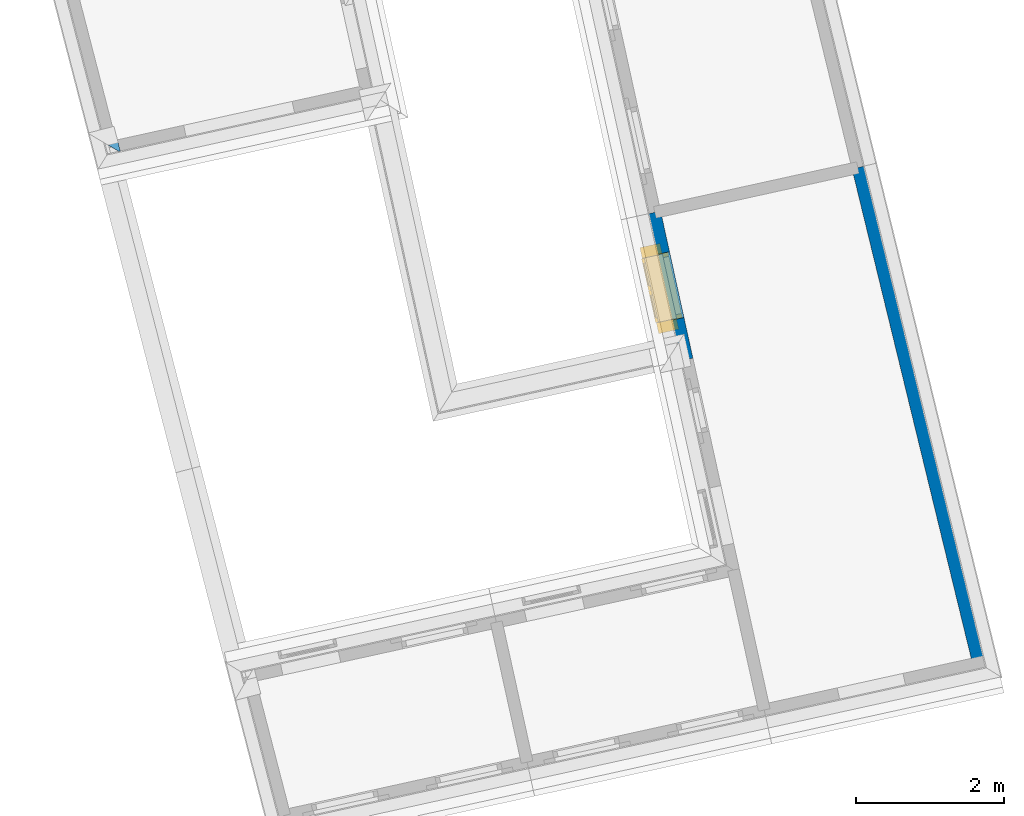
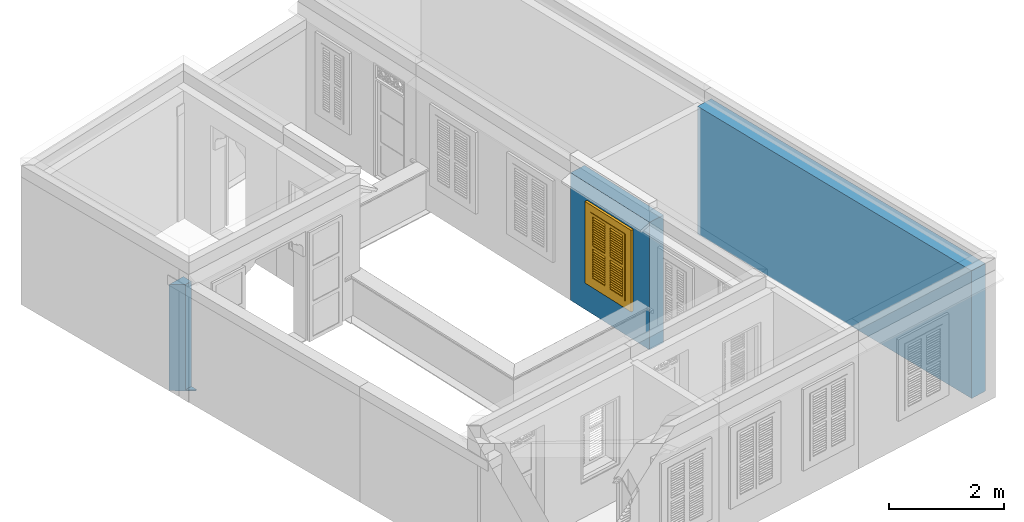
# One storey, part 8 of 17: 3 walls, 1 window, 1 opening.
"""IFC4 building model written with IfcOpenShell, lengths in metres."""

from ifc_helpers import new_model, si_unit, frame, origin, origin_with_axes, place, context, subcontext, project, spatial, polyline, outline, extrude, clip, halfspace, faceted_brep, source, transform, mapped, material, layer, layer_set, layer_usage, material_profile, profile_set, profile_usage, type_object, type_shapes, element, fill, save


model = new_model("IFC4")

# Units and contexts
model_context = context("Model", 3, world=origin_with_axes())
body_context = subcontext(model_context, "Body", "Model", "MODEL_VIEW")
ifc_project = project(units=[si_unit("PLANEANGLEUNIT", "RADIAN"), si_unit("MASSUNIT", "GRAM", prefix="KILO"), si_unit("FORCEUNIT", "NEWTON", prefix="KILO"), si_unit("LENGTHUNIT", "METRE"), si_unit("AREAUNIT", "SQUARE_METRE"), si_unit("VOLUMEUNIT", "CUBIC_METRE")], contexts=[model_context, model_context])

# Site, building, storey
site_placement = place(None, origin_with_axes())
site = spatial("IfcSite", under=ifc_project, at=site_placement, Name="Site plot-2", CompositionType="ELEMENT")
building_placement = place(None, origin_with_axes())
building = spatial("IfcBuilding", under=site, at=building_placement, Name="Building plot-2", CompositionType="ELEMENT")
storey_placement = place(None, frame((0.0, 0.0, 2.85), z_axis=(0.0, 0.0, 1.0), x_axis=(1.0, 0.0, 0.0)))
storey = spatial("IfcBuildingStorey", under=building, at=storey_placement, Name="plot-2 1", CompositionType="ELEMENT", Elevation=2.85)

# Wall, opening, window
ifc_material_1 = material(Name="Masonry")
ifc_layer_1 = layer(ifc_material_1, 0.33, ventilated=False)
ifc_layer_set_1 = layer_set([ifc_layer_1], Name="exterior_0.08_0.25")
ifc_layer_usage_1 = layer_usage(ifc_layer_set_1, "AXIS2", "POSITIVE", -0.25)
wall_type_1 = type_object("IfcWallType", Name="exterior_0.08_0.25", PredefinedType="SOLIDWALL", material=ifc_layer_set_1)
wall_1_placement = place(storey_placement, frame((16.3372042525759, 9.44376558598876, 0.0), z_axis=(0.0, 0.0, 1.0), x_axis=(0.214808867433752, -0.976656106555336, 0.0)))
wall_1 = element("IfcWall", 1, at=wall_1_placement, inside=storey, type_object=wall_type_1, material=ifc_layer_usage_1, Name="exterior", context=body_context, shape_type="SweptSolid", body=[
    extrude(outline(polyline([(6.97677754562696e-16, 0.0800000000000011), (-4.59242549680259e-17, -0.250000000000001), (2.03394094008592, -0.250000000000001), (2.03394094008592, 0.0800000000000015), (6.97677754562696e-16, 0.0800000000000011)])), origin_with_axes(), (0.0, 0.0, 1.0), 2.7),
])
opening_placement = place(wall_1_placement, frame((0.561970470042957, 0.0, 0.75)))
opening = element("IfcOpeningElement", 2, at=opening_placement, cuts=wall_1, Name="My Opening", ObjectType="Opening", context=body_context, shape_type="SweptSolid", body=[
    extrude(outline(polyline([(0.0, -0.269999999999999), (0.910000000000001, -0.269999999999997), (0.91, 1.1), (-1.4432899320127e-15, 1.1), (0.0, -0.269999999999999)])), origin_with_axes(), (0.0, 0.0, 1.0), 1.445),
])
window_type = type_object("IfcWindowType", Name="shuttered_shorter", PartitioningType="DOUBLE_PANEL_HORIZONTAL", PredefinedType="NOTDEFINED")
shared_shape = source(origin(), body_context, "Body", "Brep", [
    faceted_brep([(0.393, 0.0, 0.622), (0.074, 0.0, 0.622), (0.074, 0.0, 0.632), (0.393, 0.0, 0.632), (0.074, -0.04, 0.592), (0.393, -0.04, 0.592), (0.393, -0.04, 0.582), (0.074, -0.04, 0.582), (0.517, 0.0, 0.682), (0.836, 0.0, 0.682), (0.836, 0.0, 0.672), (0.517, 0.0, 0.672), (0.517, -0.04, 0.642), (0.836, -0.04, 0.642), (0.836, -0.04, 0.632), (0.517, -0.04, 0.632), (0.517, 0.0, 0.632), (0.836, 0.0, 0.632), (0.836, 0.0, 0.622), (0.517, 0.0, 0.622), (0.517, -0.04, 0.592), (0.836, -0.04, 0.592), (0.836, -0.04, 0.582), (0.517, -0.04, 0.582), (0.517, 0.0, 0.232), (0.836, 0.0, 0.232), (0.836, 0.0, 0.222), (0.517, 0.0, 0.222), (0.517, -0.04, 0.192), (0.836, -0.04, 0.192), (0.836, -0.04, 0.182), (0.517, -0.04, 0.182), (0.517, 0.0, 0.532), (0.836, 0.0, 0.532), (0.836, 0.0, 0.522), (0.517, 0.0, 0.522), (0.517, -0.04, 0.492), (0.836, -0.04, 0.492), (0.836, -0.04, 0.482), (0.517, -0.04, 0.482), (0.517, 0.0, 0.482), (0.836, 0.0, 0.482), (0.836, 0.0, 0.472), (0.517, 0.0, 0.472), (0.517, -0.04, 0.442), (0.836, -0.04, 0.442), (0.836, -0.04, 0.432), (0.517, -0.04, 0.432), (0.517, 0.0, 0.582), (0.836, 0.0, 0.582), (0.836, 0.0, 0.572), (0.517, 0.0, 0.572), (0.517, -0.04, 0.542), (0.836, -0.04, 0.542), (0.836, -0.04, 0.532), (0.517, -0.04, 0.532), (0.517, 0.0, 0.182), (0.836, 0.0, 0.182), (0.836, 0.0, 0.172), (0.517, 0.0, 0.172), (0.517, -0.04, 0.142), (0.836, -0.04, 0.142), (0.836, -0.04, 0.132), (0.517, -0.04, 0.132), (0.517, 0.0, 0.382), (0.836, 0.0, 0.382), (0.836, 0.0, 0.372), (0.517, 0.0, 0.372), (0.517, -0.04, 0.342), (0.836, -0.04, 0.342), (0.836, -0.04, 0.332), (0.517, -0.04, 0.332), (0.517, 0.0, 0.432), (0.836, 0.0, 0.432), (0.836, 0.0, 0.422), (0.517, 0.0, 0.422), (0.517, -0.04, 0.392), (0.836, -0.04, 0.392), (0.836, -0.04, 0.382), (0.517, -0.04, 0.382), (0.517, 0.0, 0.132), (0.836, 0.0, 0.132), (0.836, 0.0, 0.122), (0.517, 0.0, 0.122), (0.517, -0.04, 0.092), (0.836, -0.04, 0.092), (0.836, -0.04, 0.082), (0.517, -0.04, 0.082), (0.517, 0.0, 0.282), (0.836, 0.0, 0.282), (0.836, 0.0, 0.272), (0.517, 0.0, 0.272), (0.517, -0.04, 0.242), (0.836, -0.04, 0.242), (0.836, -0.04, 0.232), (0.517, -0.04, 0.232), (0.517, 0.0, 0.332), (0.836, 0.0, 0.332), (0.836, 0.0, 0.322), (0.517, 0.0, 0.322), (0.517, -0.04, 0.292), (0.836, -0.04, 0.292), (0.836, -0.04, 0.282), (0.517, -0.04, 0.282), (0.517, 0.0, 1.362667), (0.836, 0.0, 1.362667), (0.836, 0.0, 1.352667), (0.517, 0.0, 1.352667), (0.517, -0.04, 1.322667), (0.836, -0.04, 1.322667), (0.836, -0.04, 1.312667), (0.517, -0.04, 1.312667), (0.517, 0.0, 1.312667), (0.836, 0.0, 1.312667), (0.836, 0.0, 1.302667), (0.517, 0.0, 1.302667), (0.517, -0.04, 1.272667), (0.836, -0.04, 1.272667), (0.836, -0.04, 1.262667), (0.517, -0.04, 1.262667), (0.517, 0.0, 0.912667), (0.836, 0.0, 0.912667), (0.836, 0.0, 0.902667), (0.517, 0.0, 0.902667), (0.517, -0.04, 0.872667), (0.836, -0.04, 0.872667), (0.836, -0.04, 0.862667), (0.517, -0.04, 0.862667), (0.517, 0.0, 1.212667), (0.836, 0.0, 1.212667), (0.836, 0.0, 1.202667), (0.517, 0.0, 1.202667), (0.517, -0.04, 1.172667), (0.836, -0.04, 1.172667), (0.836, -0.04, 1.162667), (0.517, -0.04, 1.162667), (0.517, 0.0, 1.162667), (0.836, 0.0, 1.162667), (0.836, 0.0, 1.152667), (0.517, 0.0, 1.152667), (0.517, -0.04, 1.122667), (0.836, -0.04, 1.122667), (0.836, -0.04, 1.112667), (0.517, -0.04, 1.112667), (0.517, 0.0, 1.262667), (0.836, 0.0, 1.262667), (0.836, 0.0, 1.252667), (0.517, 0.0, 1.252667), (0.517, -0.04, 1.222667), (0.836, -0.04, 1.222667), (0.836, -0.04, 1.212667), (0.517, -0.04, 1.212667), (0.517, 0.0, 0.862667), (0.836, 0.0, 0.862667), (0.836, 0.0, 0.852667), (0.517, 0.0, 0.852667), (0.517, -0.04, 0.822667), (0.836, -0.04, 0.822667), (0.836, -0.04, 0.812667), (0.517, -0.04, 0.812667), (0.517, 0.0, 1.062667), (0.836, 0.0, 1.062667), (0.836, 0.0, 1.052667), (0.517, 0.0, 1.052667), (0.517, -0.04, 1.022667), (0.836, -0.04, 1.022667), (0.836, -0.04, 1.012667), (0.517, -0.04, 1.012667), (0.517, 0.0, 1.112667), (0.836, 0.0, 1.112667), (0.836, 0.0, 1.102667), (0.517, 0.0, 1.102667), (0.517, -0.04, 1.072667), (0.836, -0.04, 1.072667), (0.836, -0.04, 1.062667), (0.517, -0.04, 1.062667), (0.517, 0.0, 0.812667), (0.836, 0.0, 0.812667), (0.836, 0.0, 0.802667), (0.517, 0.0, 0.802667), (0.517, -0.04, 0.772667), (0.836, -0.04, 0.772667), (0.836, -0.04, 0.762667), (0.517, -0.04, 0.762667), (0.517, 0.0, 0.962667), (0.836, 0.0, 0.962667), (0.836, 0.0, 0.952667), (0.517, 0.0, 0.952667), (0.517, -0.04, 0.922667), (0.836, -0.04, 0.922667), (0.836, -0.04, 0.912667), (0.517, -0.04, 0.912667), (0.517, 0.0, 1.012667), (0.836, 0.0, 1.012667), (0.836, 0.0, 1.002667), (0.517, 0.0, 1.002667), (0.517, -0.04, 0.972667), (0.836, -0.04, 0.972667), (0.836, -0.04, 0.962667), (0.517, -0.04, 0.962667), (0.074, 0.0, 0.682), (0.393, 0.0, 0.682), (0.393, 0.0, 0.672), (0.074, 0.0, 0.672), (0.074, -0.04, 0.642), (0.393, -0.04, 0.642), (0.393, -0.04, 0.632), (0.074, -0.04, 0.632), (0.074, 0.0, 0.232), (0.393, 0.0, 0.232), (0.393, 0.0, 0.222), (0.074, 0.0, 0.222), (0.074, -0.04, 0.192), (0.393, -0.04, 0.192), (0.393, -0.04, 0.182), (0.074, -0.04, 0.182), (0.074, 0.0, 0.532), (0.393, 0.0, 0.532), (0.393, 0.0, 0.522), (0.074, 0.0, 0.522), (0.074, -0.04, 0.492), (0.393, -0.04, 0.492), (0.393, -0.04, 0.482), (0.074, -0.04, 0.482), (0.074, 0.0, 0.482), (0.393, 0.0, 0.482), (0.393, 0.0, 0.472), (0.074, 0.0, 0.472), (0.074, -0.04, 0.442), (0.393, -0.04, 0.442), (0.393, -0.04, 0.432), (0.074, -0.04, 0.432), (0.074, 0.0, 0.582), (0.393, 0.0, 0.582), (0.393, 0.0, 0.572), (0.074, 0.0, 0.572), (0.074, -0.04, 0.542), (0.393, -0.04, 0.542), (0.393, -0.04, 0.532), (0.074, -0.04, 0.532), (0.074, 0.0, 0.182), (0.393, 0.0, 0.182), (0.393, 0.0, 0.172), (0.074, 0.0, 0.172), (0.074, -0.04, 0.142), (0.393, -0.04, 0.142), (0.393, -0.04, 0.132), (0.074, -0.04, 0.132), (0.074, 0.0, 0.382), (0.393, 0.0, 0.382), (0.393, 0.0, 0.372), (0.074, 0.0, 0.372), (0.074, -0.04, 0.342), (0.393, -0.04, 0.342), (0.393, -0.04, 0.332), (0.074, -0.04, 0.332), (0.074, 0.0, 0.432), (0.393, 0.0, 0.432), (0.393, 0.0, 0.422), (0.074, 0.0, 0.422), (0.074, -0.04, 0.392), (0.393, -0.04, 0.392), (0.393, -0.04, 0.382), (0.074, -0.04, 0.382), (0.074, 0.0, 0.132), (0.393, 0.0, 0.132), (0.393, 0.0, 0.122), (0.074, 0.0, 0.122), (0.074, -0.04, 0.092), (0.393, -0.04, 0.092), (0.393, -0.04, 0.082), (0.074, -0.04, 0.082), (0.074, 0.0, 0.282), (0.393, 0.0, 0.282), (0.393, 0.0, 0.272), (0.074, 0.0, 0.272), (0.074, -0.04, 0.242), (0.393, -0.04, 0.242), (0.393, -0.04, 0.232), (0.074, -0.04, 0.232), (0.074, 0.0, 0.332), (0.393, 0.0, 0.332), (0.393, 0.0, 0.322), (0.074, 0.0, 0.322), (0.074, -0.04, 0.292), (0.393, -0.04, 0.292), (0.393, -0.04, 0.282), (0.074, -0.04, 0.282), (0.074, 0.0, 1.362667), (0.393, 0.0, 1.362667), (0.393, 0.0, 1.352667), (0.074, 0.0, 1.352667), (0.074, -0.04, 1.322667), (0.393, -0.04, 1.322667), (0.393, -0.04, 1.312667), (0.074, -0.04, 1.312667), (0.074, 0.0, 1.312667), (0.393, 0.0, 1.312667), (0.393, 0.0, 1.302667), (0.074, 0.0, 1.302667), (0.074, -0.04, 1.272667), (0.393, -0.04, 1.272667), (0.393, -0.04, 1.262667), (0.074, -0.04, 1.262667), (0.074, 0.0, 0.912667), (0.393, 0.0, 0.912667), (0.393, 0.0, 0.902667), (0.074, 0.0, 0.902667), (0.074, -0.04, 0.872667), (0.393, -0.04, 0.872667), (0.393, -0.04, 0.862667), (0.074, -0.04, 0.862667), (0.074, 0.0, 1.212667), (0.393, 0.0, 1.212667), (0.393, 0.0, 1.202667), (0.074, 0.0, 1.202667), (0.074, -0.04, 1.172667), (0.393, -0.04, 1.172667), (0.393, -0.04, 1.162667), (0.074, -0.04, 1.162667), (0.074, 0.0, 1.162667), (0.393, 0.0, 1.162667), (0.393, 0.0, 1.152667), (0.074, 0.0, 1.152667), (0.074, -0.04, 1.122667), (0.393, -0.04, 1.122667), (0.393, -0.04, 1.112667), (0.074, -0.04, 1.112667), (0.074, 0.0, 1.262667), (0.393, 0.0, 1.262667), (0.393, 0.0, 1.252667), (0.074, 0.0, 1.252667), (0.074, -0.04, 1.222667), (0.393, -0.04, 1.222667), (0.393, -0.04, 1.212667), (0.074, -0.04, 1.212667), (0.074, 0.0, 0.862667), (0.393, 0.0, 0.862667), (0.393, 0.0, 0.852667), (0.074, 0.0, 0.852667), (0.074, -0.04, 0.822667), (0.393, -0.04, 0.822667), (0.393, -0.04, 0.812667), (0.074, -0.04, 0.812667), (0.074, 0.0, 1.062667), (0.393, 0.0, 1.062667), (0.393, 0.0, 1.052667), (0.074, 0.0, 1.052667), (0.074, -0.04, 1.022667), (0.393, -0.04, 1.022667), (0.393, -0.04, 1.012667), (0.074, -0.04, 1.012667), (0.074, 0.0, 1.112667), (0.393, 0.0, 1.112667), (0.393, 0.0, 1.102667), (0.074, 0.0, 1.102667), (0.074, -0.04, 1.072667), (0.393, -0.04, 1.072667), (0.393, -0.04, 1.062667), (0.074, -0.04, 1.062667), (0.074, 0.0, 0.812667), (0.393, 0.0, 0.812667), (0.393, 0.0, 0.802667), (0.074, 0.0, 0.802667), (0.074, -0.04, 0.772667), (0.393, -0.04, 0.772667), (0.393, -0.04, 0.762667), (0.074, -0.04, 0.762667), (0.074, 0.0, 0.962667), (0.393, 0.0, 0.962667), (0.393, 0.0, 0.952667), (0.074, 0.0, 0.952667), (0.074, -0.04, 0.922667), (0.393, -0.04, 0.922667), (0.393, -0.04, 0.912667), (0.074, -0.04, 0.912667), (0.074, 0.0, 1.012667), (0.393, 0.0, 1.012667), (0.393, 0.0, 1.002667), (0.074, 0.0, 1.002667), (0.074, -0.04, 0.972667), (0.393, -0.04, 0.972667), (0.393, -0.04, 0.962667), (0.074, -0.04, 0.962667), (0.517, -0.04, 0.072), (0.457, -0.04, 0.012), (0.896, -0.04, 0.012), (0.836, -0.04, 0.072), (0.457, -0.04, 0.692667), (0.517, -0.04, 0.692667), (0.457, 0.0, 0.012), (0.896, 0.0, 0.012), (0.836, -0.04, 0.692667), (0.896, -0.04, 0.692667), (0.836, 0.0, 0.072), (0.517, 0.0, 0.072), (0.457, 0.0, 0.692667), (0.517, 0.0, 0.692667), (0.517, -0.04, 0.752666), (0.457, -0.04, 0.752666), (0.896, 0.0, 0.692667), (0.836, 0.0, 0.692667), (0.836, -0.04, 0.752666), (0.896, -0.04, 0.752666), (0.457, 0.0, 0.752666), (0.457, -0.04, 1.433333), (0.517, -0.04, 1.373333), (0.896, 0.0, 0.752666), (0.836, -0.04, 1.373333), (0.896, -0.04, 1.433333), (0.457, 0.0, 1.433333), (0.517, 0.0, 0.752666), (0.836, 0.0, 0.752666), (0.517, 0.0, 1.373333), (0.896, 0.0, 1.433333), (0.836, 0.0, 1.373333), (0.074, -0.04, 0.072), (0.014, -0.04, 0.012), (0.453, -0.04, 0.012), (0.393, -0.04, 0.072), (0.014, -0.04, 0.692667), (0.074, -0.04, 0.692667), (0.014, 0.0, 0.012), (0.453, 0.0, 0.012), (0.393, -0.04, 0.692667), (0.453, -0.04, 0.692667), (0.393, 0.0, 0.072), (0.074, 0.0, 0.072), (0.014, 0.0, 0.692667), (0.074, 0.0, 0.692667), (0.074, -0.04, 0.752666), (0.014, -0.04, 0.752666), (0.453, 0.0, 0.692667), (0.393, 0.0, 0.692667), (0.393, -0.04, 0.752666), (0.453, -0.04, 0.752666), (0.014, 0.0, 0.752666), (0.014, -0.04, 1.433333), (0.074, -0.04, 1.373333), (0.453, 0.0, 0.752666), (0.393, -0.04, 1.373333), (0.453, -0.04, 1.433333), (0.014, 0.0, 1.433333), (0.074, 0.0, 0.752666), (0.393, 0.0, 0.752666), (0.074, 0.0, 1.373333), (0.453, 0.0, 1.433333), (0.393, 0.0, 1.373333), (0.0, 0.33, 1.445), (0.91, 0.33, 1.445), (0.85, 0.33, 1.385), (0.06, 0.33, 1.385), (0.91, 0.25, 1.445), (0.0, 0.25, 1.445), (0.91, 0.25, 1.445), (0.85, 0.33, 0.06), (0.91, 0.33, 0.0), (0.85, 0.25, 1.385), (0.06, 0.25, 1.385), (0.0, 0.33, 0.0), (0.06, 0.33, 0.06), (0.0, 0.25, 0.0), (0.91, 0.25, 0.0), (0.85, 0.25, 0.06), (0.06, 0.25, 0.06), (1.05, 0.25, 1.585), (-0.14, 0.25, 1.585), (-0.14, -0.03, 1.585), (1.05, -0.03, 1.585), (0.9, -0.03, 1.435), (0.01, -0.03, 1.435), (0.01, 0.25, 1.435), (0.9, 0.25, 1.435), (0.9, 0.25, 0.01), (0.9, -0.03, 0.01), (1.05, -0.03, -0.14), (1.05, 0.25, -0.14), (0.01, -0.03, 0.01), (0.01, 0.25, 0.01), (-0.14, -0.03, -0.14), (-0.14, 0.25, -0.14)], [[[0, 1, 2, 3]], [[4, 5, 3, 2]], [[5, 6, 0, 3]], [[1, 0, 6, 7]], [[2, 1, 7, 4]], [[5, 4, 7, 6]], [[8, 9, 10, 11]], [[12, 13, 9, 8]], [[13, 14, 10, 9]], [[14, 15, 11, 10]], [[15, 12, 8, 11]], [[13, 12, 15, 14]], [[16, 17, 18, 19]], [[20, 21, 17, 16]], [[21, 22, 18, 17]], [[22, 23, 19, 18]], [[23, 20, 16, 19]], [[21, 20, 23, 22]], [[24, 25, 26, 27]], [[28, 29, 25, 24]], [[29, 30, 26, 25]], [[30, 31, 27, 26]], [[31, 28, 24, 27]], [[29, 28, 31, 30]], [[32, 33, 34, 35]], [[36, 37, 33, 32]], [[37, 38, 34, 33]], [[38, 39, 35, 34]], [[39, 36, 32, 35]], [[37, 36, 39, 38]], [[40, 41, 42, 43]], [[44, 45, 41, 40]], [[45, 46, 42, 41]], [[46, 47, 43, 42]], [[47, 44, 40, 43]], [[45, 44, 47, 46]], [[48, 49, 50, 51]], [[52, 53, 49, 48]], [[53, 54, 50, 49]], [[54, 55, 51, 50]], [[55, 52, 48, 51]], [[53, 52, 55, 54]], [[56, 57, 58, 59]], [[60, 61, 57, 56]], [[61, 62, 58, 57]], [[62, 63, 59, 58]], [[63, 60, 56, 59]], [[61, 60, 63, 62]], [[64, 65, 66, 67]], [[68, 69, 65, 64]], [[69, 70, 66, 65]], [[70, 71, 67, 66]], [[71, 68, 64, 67]], [[69, 68, 71, 70]], [[72, 73, 74, 75]], [[76, 77, 73, 72]], [[77, 78, 74, 73]], [[78, 79, 75, 74]], [[79, 76, 72, 75]], [[77, 76, 79, 78]], [[80, 81, 82, 83]], [[84, 85, 81, 80]], [[85, 86, 82, 81]], [[86, 87, 83, 82]], [[87, 84, 80, 83]], [[85, 84, 87, 86]], [[88, 89, 90, 91]], [[92, 93, 89, 88]], [[93, 94, 90, 89]], [[94, 95, 91, 90]], [[95, 92, 88, 91]], [[93, 92, 95, 94]], [[96, 97, 98, 99]], [[100, 101, 97, 96]], [[101, 102, 98, 97]], [[102, 103, 99, 98]], [[103, 100, 96, 99]], [[101, 100, 103, 102]], [[104, 105, 106, 107]], [[108, 109, 105, 104]], [[109, 110, 106, 105]], [[110, 111, 107, 106]], [[111, 108, 104, 107]], [[109, 108, 111, 110]], [[112, 113, 114, 115]], [[116, 117, 113, 112]], [[117, 118, 114, 113]], [[118, 119, 115, 114]], [[119, 116, 112, 115]], [[117, 116, 119, 118]], [[120, 121, 122, 123]], [[124, 125, 121, 120]], [[125, 126, 122, 121]], [[126, 127, 123, 122]], [[127, 124, 120, 123]], [[125, 124, 127, 126]], [[128, 129, 130, 131]], [[132, 133, 129, 128]], [[133, 134, 130, 129]], [[134, 135, 131, 130]], [[135, 132, 128, 131]], [[133, 132, 135, 134]], [[136, 137, 138, 139]], [[140, 141, 137, 136]], [[141, 142, 138, 137]], [[142, 143, 139, 138]], [[139, 143, 140, 136]], [[141, 140, 143, 142]], [[144, 145, 146, 147]], [[148, 149, 145, 144]], [[149, 150, 146, 145]], [[150, 151, 147, 146]], [[151, 148, 144, 147]], [[149, 148, 151, 150]], [[152, 153, 154, 155]], [[156, 157, 153, 152]], [[157, 158, 154, 153]], [[158, 159, 155, 154]], [[159, 156, 152, 155]], [[157, 156, 159, 158]], [[160, 161, 162, 163]], [[164, 165, 161, 160]], [[165, 166, 162, 161]], [[166, 167, 163, 162]], [[167, 164, 160, 163]], [[165, 164, 167, 166]], [[168, 169, 170, 171]], [[172, 173, 169, 168]], [[173, 174, 170, 169]], [[174, 175, 171, 170]], [[175, 172, 168, 171]], [[173, 172, 175, 174]], [[176, 177, 178, 179]], [[180, 181, 177, 176]], [[181, 182, 178, 177]], [[182, 183, 179, 178]], [[183, 180, 176, 179]], [[181, 180, 183, 182]], [[184, 185, 186, 187]], [[188, 189, 185, 184]], [[189, 190, 186, 185]], [[190, 191, 187, 186]], [[191, 188, 184, 187]], [[189, 188, 191, 190]], [[192, 193, 194, 195]], [[196, 197, 193, 192]], [[197, 198, 194, 193]], [[198, 199, 195, 194]], [[199, 196, 192, 195]], [[197, 196, 199, 198]], [[200, 201, 202, 203]], [[204, 205, 201, 200]], [[205, 206, 202, 201]], [[206, 207, 203, 202]], [[207, 204, 200, 203]], [[205, 204, 207, 206]], [[208, 209, 210, 211]], [[212, 213, 209, 208]], [[213, 214, 210, 209]], [[214, 215, 211, 210]], [[215, 212, 208, 211]], [[213, 212, 215, 214]], [[216, 217, 218, 219]], [[220, 221, 217, 216]], [[221, 222, 218, 217]], [[222, 223, 219, 218]], [[223, 220, 216, 219]], [[221, 220, 223, 222]], [[224, 225, 226, 227]], [[228, 229, 225, 224]], [[229, 230, 226, 225]], [[230, 231, 227, 226]], [[231, 228, 224, 227]], [[229, 228, 231, 230]], [[232, 233, 234, 235]], [[236, 237, 233, 232]], [[237, 238, 234, 233]], [[238, 239, 235, 234]], [[239, 236, 232, 235]], [[237, 236, 239, 238]], [[240, 241, 242, 243]], [[244, 245, 241, 240]], [[245, 246, 242, 241]], [[246, 247, 243, 242]], [[247, 244, 240, 243]], [[245, 244, 247, 246]], [[248, 249, 250, 251]], [[252, 253, 249, 248]], [[253, 254, 250, 249]], [[254, 255, 251, 250]], [[255, 252, 248, 251]], [[253, 252, 255, 254]], [[256, 257, 258, 259]], [[260, 261, 257, 256]], [[261, 262, 258, 257]], [[262, 263, 259, 258]], [[263, 260, 256, 259]], [[261, 260, 263, 262]], [[264, 265, 266, 267]], [[268, 269, 265, 264]], [[269, 270, 266, 265]], [[270, 271, 267, 266]], [[271, 268, 264, 267]], [[269, 268, 271, 270]], [[272, 273, 274, 275]], [[276, 277, 273, 272]], [[277, 278, 274, 273]], [[278, 279, 275, 274]], [[279, 276, 272, 275]], [[277, 276, 279, 278]], [[280, 281, 282, 283]], [[284, 285, 281, 280]], [[285, 286, 282, 281]], [[286, 287, 283, 282]], [[287, 284, 280, 283]], [[285, 284, 287, 286]], [[288, 289, 290, 291]], [[292, 293, 289, 288]], [[293, 294, 290, 289]], [[294, 295, 291, 290]], [[295, 292, 288, 291]], [[293, 292, 295, 294]], [[296, 297, 298, 299]], [[300, 301, 297, 296]], [[301, 302, 298, 297]], [[302, 303, 299, 298]], [[303, 300, 296, 299]], [[301, 300, 303, 302]], [[304, 305, 306, 307]], [[308, 309, 305, 304]], [[309, 310, 306, 305]], [[310, 311, 307, 306]], [[311, 308, 304, 307]], [[309, 308, 311, 310]], [[312, 313, 314, 315]], [[316, 317, 313, 312]], [[317, 318, 314, 313]], [[318, 319, 315, 314]], [[319, 316, 312, 315]], [[317, 316, 319, 318]], [[320, 321, 322, 323]], [[324, 325, 321, 320]], [[325, 326, 322, 321]], [[326, 327, 323, 322]], [[327, 324, 320, 323]], [[325, 324, 327, 326]], [[328, 329, 330, 331]], [[332, 333, 329, 328]], [[333, 334, 330, 329]], [[334, 335, 331, 330]], [[335, 332, 328, 331]], [[333, 332, 335, 334]], [[336, 337, 338, 339]], [[340, 341, 337, 336]], [[341, 342, 338, 337]], [[342, 343, 339, 338]], [[343, 340, 336, 339]], [[341, 340, 343, 342]], [[344, 345, 346, 347]], [[348, 349, 345, 344]], [[349, 350, 346, 345]], [[350, 351, 347, 346]], [[351, 348, 344, 347]], [[349, 348, 351, 350]], [[352, 353, 354, 355]], [[356, 357, 353, 352]], [[357, 358, 354, 353]], [[358, 359, 355, 354]], [[359, 356, 352, 355]], [[357, 356, 359, 358]], [[360, 361, 362, 363]], [[364, 365, 361, 360]], [[365, 366, 362, 361]], [[366, 367, 363, 362]], [[367, 364, 360, 363]], [[365, 364, 367, 366]], [[368, 369, 370, 371]], [[372, 373, 369, 368]], [[373, 374, 370, 369]], [[374, 375, 371, 370]], [[375, 372, 368, 371]], [[373, 372, 375, 374]], [[376, 377, 378, 379]], [[380, 381, 377, 376]], [[381, 382, 378, 377]], [[382, 383, 379, 378]], [[383, 380, 376, 379]], [[381, 380, 383, 382]], [[384, 385, 386, 387]], [[388, 385, 384, 389]], [[390, 391, 386, 385]], [[392, 387, 386, 393]], [[384, 387, 394, 395]], [[390, 385, 388, 396]], [[389, 384, 395, 397]], [[389, 398, 399, 388]], [[390, 395, 394, 391]], [[400, 393, 386, 391]], [[387, 392, 401, 394]], [[402, 392, 393, 403]], [[396, 388, 399, 404]], [[390, 396, 397, 395]], [[392, 389, 397, 401]], [[398, 389, 392, 402]], [[405, 399, 398, 406]], [[394, 401, 400, 391]], [[407, 403, 393, 400]], [[408, 402, 403, 409]], [[404, 399, 405, 410]], [[411, 397, 396, 404]], [[397, 411, 412, 401]], [[398, 402, 412, 411]], [[406, 398, 411, 413]], [[405, 406, 408, 409]], [[401, 412, 407, 400]], [[414, 409, 403, 407]], [[402, 408, 415, 412]], [[405, 409, 414, 410]], [[404, 410, 413, 411]], [[408, 406, 413, 415]], [[412, 415, 414, 407]], [[413, 410, 414, 415]], [[416, 417, 418, 419]], [[420, 417, 416, 421]], [[422, 423, 418, 417]], [[424, 419, 418, 425]], [[416, 419, 426, 427]], [[422, 417, 420, 428]], [[421, 416, 427, 429]], [[421, 430, 431, 420]], [[422, 427, 426, 423]], [[432, 425, 418, 423]], [[419, 424, 433, 426]], [[434, 424, 425, 435]], [[428, 420, 431, 436]], [[422, 428, 429, 427]], [[424, 421, 429, 433]], [[430, 421, 424, 434]], [[437, 431, 430, 438]], [[426, 433, 432, 423]], [[439, 435, 425, 432]], [[440, 434, 435, 441]], [[436, 431, 437, 442]], [[443, 429, 428, 436]], [[429, 443, 444, 433]], [[430, 434, 444, 443]], [[438, 430, 443, 445]], [[437, 438, 440, 441]], [[433, 444, 439, 432]], [[446, 441, 435, 439]], [[434, 440, 447, 444]], [[437, 441, 446, 442]], [[436, 442, 445, 443]], [[440, 438, 445, 447]], [[444, 447, 446, 439]], [[445, 442, 446, 447]], [[448, 449, 450, 451]], [[452, 449, 448]], [[448, 453, 454]], [[448, 454, 452]], [[455, 450, 449, 456]], [[451, 450, 457, 458]], [[459, 448, 451, 460]], [[448, 459, 461, 453]], [[454, 453, 458, 457]], [[462, 452, 454]], [[454, 457, 463]], [[454, 463, 462]], [[456, 449, 452, 462]], [[450, 455, 463, 457]], [[456, 459, 460, 455]], [[460, 451, 458, 464]], [[459, 456, 462, 461]], [[464, 458, 453, 461]], [[461, 462, 463, 464]], [[455, 460, 464, 463]], [[465, 466, 467, 468]], [[469, 470, 471, 472]], [[473, 474, 469, 472]], [[465, 468, 475, 476]], [[470, 477, 478, 471]], [[474, 473, 478, 477]], [[474, 477, 479, 475]], [[470, 467, 479, 477]], [[470, 469, 468, 467]], [[474, 475, 468, 469]], [[471, 478, 480, 466]], [[473, 472, 465, 476]], [[473, 476, 480, 478]], [[466, 465, 472, 471]], [[480, 476, 475, 479]], [[480, 479, 467, 466]]]),
])
type_shapes(window_type, [shared_shape])
window_placement = place(storey_placement, frame((16.1942233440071, 8.83691530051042, 0.75), z_axis=(0.0, 0.0, 1.0), x_axis=(0.195476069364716, -0.888757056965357, 0.0)))
window = element("IfcWindow", 3, at=window_placement, inside=storey, type_object=window_type, Name="bedroom sahn window", OverallHeight=1.445, OverallWidth=0.91, context=body_context, shape_type="MappedRepresentation", body=[
    mapped(shared_shape, transform((0.0, 0.0, 0.0), scale=1.0)),
])
fill(opening, window)

# Walls
ifc_material_2 = material(Name="Masonry")
ifc_layer_2 = layer(ifc_material_2, 0.33, ventilated=False)
ifc_layer_set_2 = layer_set([ifc_layer_2], Name="party_0.08_0.25")
ifc_layer_usage_2 = layer_usage(ifc_layer_set_2, "AXIS2", "POSITIVE", -0.25)
wall_type_2 = type_object("IfcWallType", Name="party_0.08_0.25", PredefinedType="SOLIDWALL", material=ifc_layer_set_2)
wall_2_placement = place(storey_placement, frame((20.7070596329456, 3.36053728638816, 0.0), z_axis=(0.0, 0.0, 1.0), x_axis=(-0.23660834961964, 0.971605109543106, 0.0)))
element("IfcWall", 4, at=wall_2_placement, inside=storey, type_object=wall_type_2, material=ifc_layer_usage_2, Name="party", context=body_context, shape_type="SweptSolid", body=[
    extrude(outline(polyline([(1.11479997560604e-16, 0.08), (2.37352689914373e-16, -0.25), (6.88162867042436, -0.249999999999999), (6.88162867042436, 0.080000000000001), (1.11479997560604e-16, 0.08)])), origin_with_axes(), (0.0, 0.0, 1.0), 2.7),
])
ifc_material_profile = material_profile(None, outline(polyline([(0.25, 0.0), (0.25, 2.245), (0.05, 2.245), (0.05, 0.02), (-0.08, 0.02), (-0.08, 0.0), (0.25, 0.0)])))
ifc_profile_set = profile_set([ifc_material_profile])
ifc_profile_usage = profile_usage(ifc_profile_set)
wall_type_3 = type_object("IfcWallType", Name="parapet party_0", PredefinedType="PARAPET", material=ifc_profile_set)
wall_3_placement = place(storey_placement, frame((8.03640757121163, 10.0729819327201, 0.0), z_axis=(0.968110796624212, 0.250522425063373, 0.0), x_axis=(-0.250522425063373, 0.968110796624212, 0.0)))
element("IfcWall", 5, at=wall_3_placement, inside=storey, type_object=wall_type_3, material=ifc_profile_usage, Name="parapet party_0", context=body_context, shape_type="Clipping", body=[
    clip(clip(extrude(outline(polyline([(0.25, 0.0), (0.25, 2.245), (0.05, 2.245), (0.05, 0.02), (-0.08, 0.02), (-0.08, 0.0), (0.25, 0.0)])), origin_with_axes(), (0.0, 0.0, 1.0), 2.1), halfspace(frame((0.0, 0.0, 1.1), z_axis=(-5.0532154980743e-16, 0.0, -1.0), x_axis=(0.0, 1.0, 0.0)), True)), halfspace(frame((0.0, 0.0, 1.0), z_axis=(-0.707106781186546, 0.0, -0.707106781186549), x_axis=(0.0, 1.0, 0.0)), False)),
])

save(model, "model.ifc")
